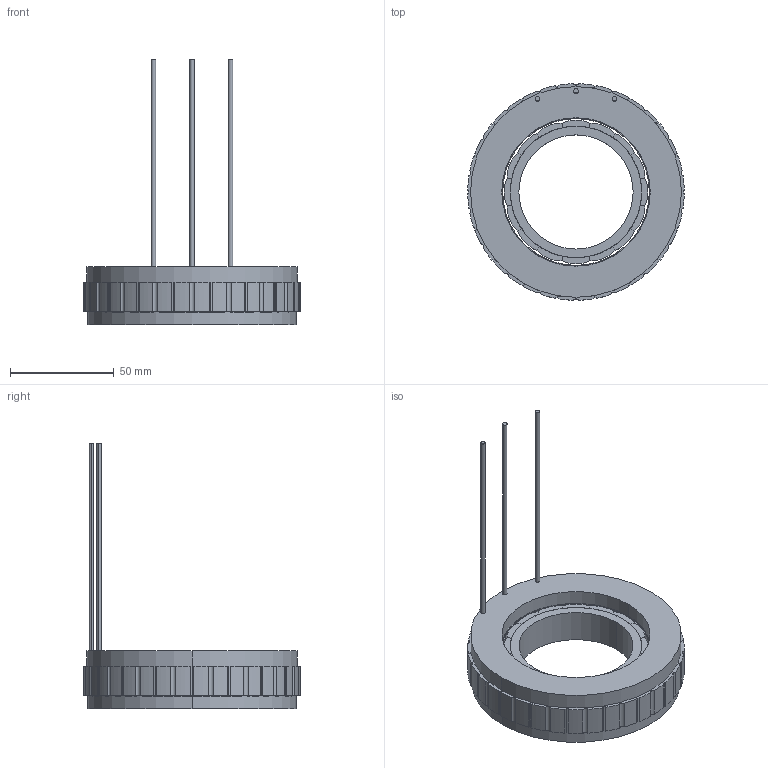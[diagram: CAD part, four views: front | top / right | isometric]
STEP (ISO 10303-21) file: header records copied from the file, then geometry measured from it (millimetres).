
FILE_DESCRIPTION (( 'STEP AP203' ), '1' );
FILE_NAME ('307080338SS FMC10414-0060-2555N-8DS00-V1.1.STEP', '2022-12-06T09:29:54', ( 'muse' ), ( 'muse' ), 'SwSTEP 2.0', 'SolidWorks 2022', '' );
FILE_SCHEMA (( 'CONFIG_CONTROL_DESIGN' ));
Length unit declared in the file: millimetre
Products named in the file (6): 307080338SS FMC10414-0060-2555N-8DS00-V1.1; 线包100; 磁钢; 定子铁芯; 转子铁芯; 104包胶
Assembly tree (54 placements, depth 2):
  307080338SS FMC10414-0060-2555N-8DS00-V1.1
    磁钢  x16
    转子铁芯
    104包胶  x18
    定子铁芯  x18
    线包100
Bounding box: 104.29 x 104.27 x 128 mm (x, y, z)
Volume: 123923.3 mm3; surface area: 97992.2 mm2
Topology: 55 solids, 55 shells, 1433 faces, 3996 edges, 2640 vertices
Faces by surface type: plane 829, cylinder 604
Entity records: 5483 total; most frequent: DIRECTION 703, CARTESIAN_POINT 620, ORIENTED_EDGE 550, EDGE_CURVE 275, AXIS2_PLACEMENT_3D 265, VERTEX_POINT 182, VECTOR 173, LINE 173
